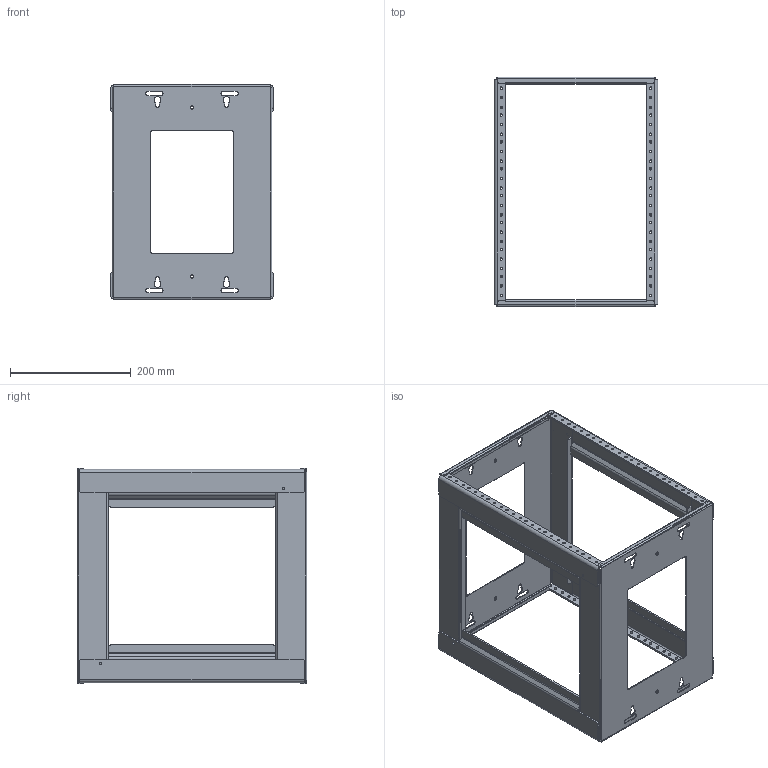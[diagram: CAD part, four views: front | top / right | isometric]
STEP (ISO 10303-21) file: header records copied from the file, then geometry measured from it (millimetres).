
FILE_DESCRIPTION((''),'2;1');
FILE_NAME('PCFR31_ASM','2013-04-18T',('bmann'),('Middle Atlantic Products'),'PRO/ENGINEER BY PARAMETRIC TECHNOLOGY CORPORATION, 2012420','PRO/ENGINEER BY PARAMETRIC TECHNOLOGY CORPORATION, 2012420','');
FILE_SCHEMA(('CONFIG_CONTROL_DESIGN'));
Length unit declared in the file: inch
Products named in the file (4): BCFRTB6; STCFRTB6_ASM; TPCFR8RR; PCFR31_ASM
Assembly tree (7 placements, depth 3):
  PCFR31_ASM
    STCFRTB6_ASM  x2
      BCFRTB6
    TPCFR8RR  x4
Bounding box: 270.51 x 379.37 x 355.6 mm (x, y, z)
Volume: 670772.2 mm3; surface area: 677312.3 mm2
Topology: 6 solids, 6 shells, 676 faces, 1768 edges, 1104 vertices
Faces by surface type: cylinder 360, plane 316
Entity records: 7784 total; most frequent: DIRECTION 1402, CARTESIAN_POINT 1292, ORIENTED_EDGE 1276, EDGE_CURVE 638, AXIS2_PLACEMENT_3D 506, VERTEX_POINT 396, VECTOR 390, LINE 390
